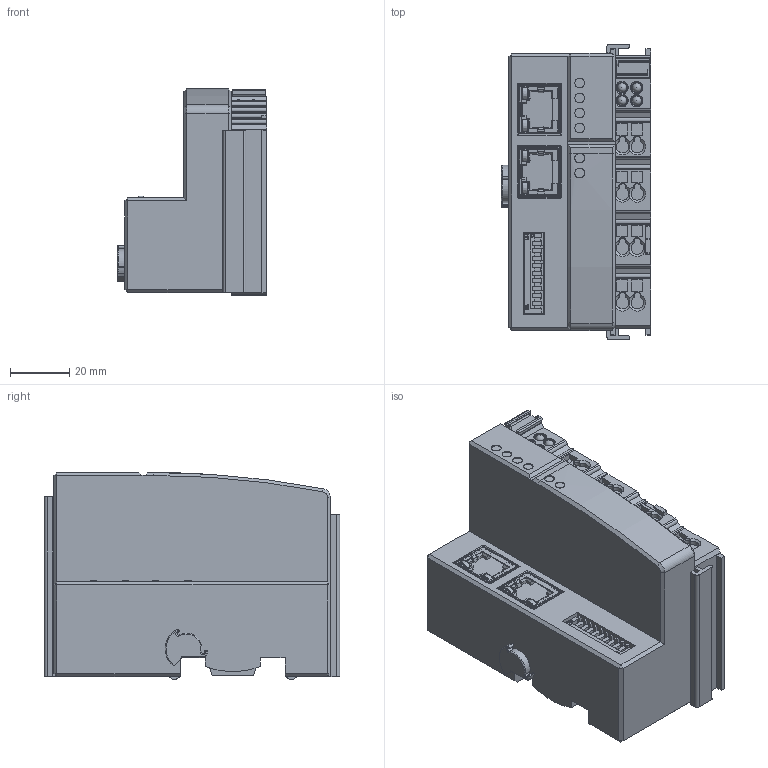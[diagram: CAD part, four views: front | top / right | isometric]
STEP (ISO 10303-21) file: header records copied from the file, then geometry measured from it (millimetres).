
FILE_DESCRIPTION(/* description */ ('Bus-Controller/-coupler 51mm 2 x RJ45 8 pin ID-Switch'),/* implementation_level */ '2;1');
FILE_NAME(/* name */ 'E:\bus-controller_coupler_51mm_2xrj45_8pin_id-switch.stp',/* time_stamp */ '2021-03-02T13:05:24+01:00',/* author */ (''),/* organization */ (''),/* preprocessor_version */ 'ST-DEVELOPER v18.1',/* originating_system */ 'Autodesk Inventor 2020',/* authorisation */ '');
FILE_SCHEMA (('CONFIG_CONTROL_DESIGN'));
Length unit declared in the file: millimetre
Products named in the file (1): 0000004088_Bus_Controller_Koppler_51mm_2xRJ45_8pin_ID_Switch
Bounding box: 50.5 x 100 x 70 mm (x, y, z)
Volume: 222038 mm3; surface area: 33472.5 mm2
Topology: 1 solids, 2 shells, 976 faces, 2612 edges, 1625 vertices
Faces by surface type: plane 708, cylinder 153, bspline 53, sphere 31, cone 24, torus 7
Full cylindrical faces by diameter (mm): 3 x4, 3.3 x6, 3.6 x4, 4.2 x4
Entity records: 32697 total; most frequent: CARTESIAN_POINT 7490, ORIENTED_EDGE 5168, DIRECTION 4765, EDGE_CURVE 2584, LINE 2021, VECTOR 2021, VERTEX_POINT 1625, AXIS2_PLACEMENT_3D 1372
